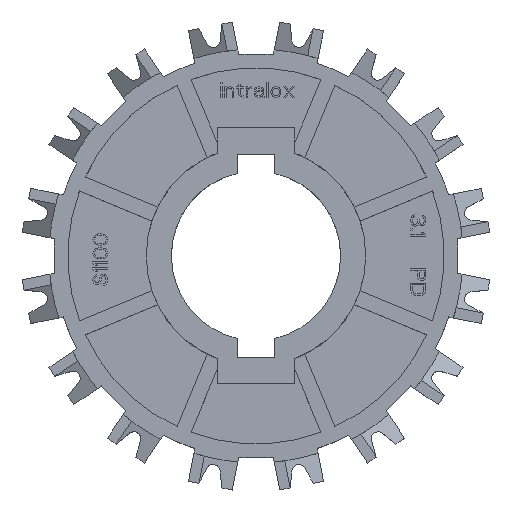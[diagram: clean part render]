
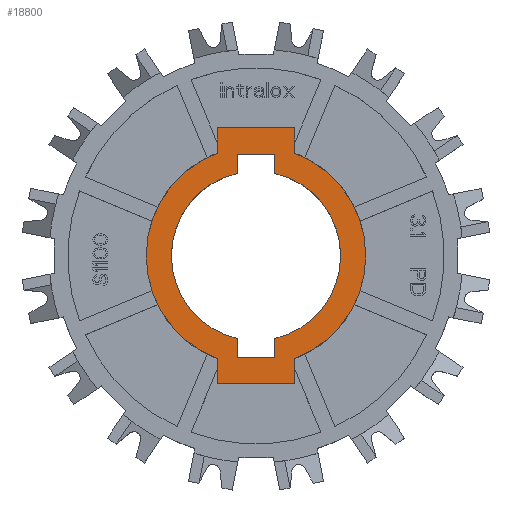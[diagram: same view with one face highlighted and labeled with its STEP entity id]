
A CAD part, top view. The second image highlights one B-rep face of the part: STEP entity #18800.
In plain terms, the highlighted planar face has unit normal (0, 0, 1).
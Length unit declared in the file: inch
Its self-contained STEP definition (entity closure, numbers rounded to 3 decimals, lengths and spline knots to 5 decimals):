
#6027=CARTESIAN_POINT('',(0.,0.,0.49));
#6028=DIRECTION('',(0.,0.,1.));
#6029=DIRECTION('',(-0.351,0.936,0.));
#6030=AXIS2_PLACEMENT_3D('',#6027,#6028,#6029);
#6032=DIRECTION('',(0.,-1.,0.));
#6033=VECTOR('',#6032,0.16739);
#6034=CARTESIAN_POINT('',(-0.256,0.8505,0.49));
#6035=LINE('',#6034,#6033);
#6036=DIRECTION('',(-1.,0.,0.));
#6037=VECTOR('',#6036,0.512);
#6038=CARTESIAN_POINT('',(0.256,0.8505,0.49));
#6039=LINE('',#6038,#6037);
#6040=DIRECTION('',(0.,1.,0.));
#6041=VECTOR('',#6040,0.16739);
#6042=CARTESIAN_POINT('',(0.256,0.68311,0.49));
#6043=LINE('',#6042,#6041);
#6044=CARTESIAN_POINT('',(0.,0.,0.49));
#6045=DIRECTION('',(0.,0.,1.));
#6046=DIRECTION('',(0.351,-0.936,0.));
#6047=AXIS2_PLACEMENT_3D('',#6044,#6045,#6046);
#6049=DIRECTION('',(0.,1.,0.));
#6050=VECTOR('',#6049,0.16739);
#6051=CARTESIAN_POINT('',(0.256,-0.8505,0.49));
#6052=LINE('',#6051,#6050);
#6053=DIRECTION('',(1.,0.,0.));
#6054=VECTOR('',#6053,0.512);
#6055=CARTESIAN_POINT('',(-0.256,-0.8505,0.49));
#6056=LINE('',#6055,#6054);
#6057=DIRECTION('',(0.,-1.,0.));
#6058=VECTOR('',#6057,0.16739);
#6059=CARTESIAN_POINT('',(-0.256,-0.68311,0.49));
#6060=LINE('',#6059,#6058);
#6061=DIRECTION('',(0.,-1.,0.));
#6062=VECTOR('',#6061,0.125);
#6063=CARTESIAN_POINT('',(-0.125,0.67344,0.49));
#6064=LINE('',#6063,#6062);
#6065=CARTESIAN_POINT('',(0.,0.,0.49));
#6066=DIRECTION('',(0.,0.,1.));
#6067=DIRECTION('',(-0.222,0.975,0.));
#6068=AXIS2_PLACEMENT_3D('',#6065,#6066,#6067);
#6070=DIRECTION('',(0.,-1.,0.));
#6071=VECTOR('',#6070,0.125);
#6072=CARTESIAN_POINT('',(-0.125,-0.54844,0.49));
#6073=LINE('',#6072,#6071);
#6074=DIRECTION('',(1.,0.,0.));
#6075=VECTOR('',#6074,0.25);
#6076=CARTESIAN_POINT('',(-0.125,-0.67344,0.49));
#6077=LINE('',#6076,#6075);
#6078=DIRECTION('',(0.,1.,0.));
#6079=VECTOR('',#6078,0.125);
#6080=CARTESIAN_POINT('',(0.125,-0.67344,0.49));
#6081=LINE('',#6080,#6079);
#6082=CARTESIAN_POINT('',(0.,0.,0.49));
#6083=DIRECTION('',(0.,0.,1.));
#6084=DIRECTION('',(0.222,-0.975,0.));
#6085=AXIS2_PLACEMENT_3D('',#6082,#6083,#6084);
#6087=DIRECTION('',(0.,1.,0.));
#6088=VECTOR('',#6087,0.125);
#6089=CARTESIAN_POINT('',(0.125,0.54844,0.49));
#6090=LINE('',#6089,#6088);
#6091=DIRECTION('',(-1.,0.,0.));
#6092=VECTOR('',#6091,0.25);
#6093=CARTESIAN_POINT('',(0.125,0.67344,0.49));
#6094=LINE('',#6093,#6092);
#10805=CARTESIAN_POINT('',(-0.256,0.68311,0.49));
#10806=CARTESIAN_POINT('',(-0.256,-0.68311,0.49));
#10807=VERTEX_POINT('',#10805);
#10808=VERTEX_POINT('',#10806);
#10809=CARTESIAN_POINT('',(-0.256,-0.8505,0.49));
#10810=VERTEX_POINT('',#10809);
#10811=CARTESIAN_POINT('',(0.256,-0.8505,0.49));
#10812=VERTEX_POINT('',#10811);
#10813=CARTESIAN_POINT('',(0.256,-0.68311,0.49));
#10814=VERTEX_POINT('',#10813);
#10815=CARTESIAN_POINT('',(0.256,0.68311,0.49));
#10816=VERTEX_POINT('',#10815);
#10817=CARTESIAN_POINT('',(0.256,0.8505,0.49));
#10818=VERTEX_POINT('',#10817);
#10819=CARTESIAN_POINT('',(-0.256,0.8505,0.49));
#10820=VERTEX_POINT('',#10819);
#10997=CARTESIAN_POINT('',(-0.125,0.67344,0.49));
#10998=CARTESIAN_POINT('',(-0.125,0.54844,0.49));
#10999=VERTEX_POINT('',#10997);
#11000=VERTEX_POINT('',#10998);
#11001=CARTESIAN_POINT('',(-0.125,-0.54844,0.49));
#11002=VERTEX_POINT('',#11001);
#11003=CARTESIAN_POINT('',(-0.125,-0.67344,0.49));
#11004=VERTEX_POINT('',#11003);
#11005=CARTESIAN_POINT('',(0.125,-0.67344,0.49));
#11006=VERTEX_POINT('',#11005);
#11007=CARTESIAN_POINT('',(0.125,-0.54844,0.49));
#11008=VERTEX_POINT('',#11007);
#11009=CARTESIAN_POINT('',(0.125,0.54844,0.49));
#11010=VERTEX_POINT('',#11009);
#11011=CARTESIAN_POINT('',(0.125,0.67344,0.49));
#11012=VERTEX_POINT('',#11011);
#18766=CARTESIAN_POINT('',(0.,0.,0.49));
#18767=DIRECTION('',(0.,0.,1.));
#18768=DIRECTION('',(1.,0.,0.));
#18769=AXIS2_PLACEMENT_3D('',#18766,#18767,#18768);
#18770=PLANE('',#18769);
#18771=ORIENTED_EDGE('',*,*,#16611,.F.);
#18772=ORIENTED_EDGE('',*,*,#18699,.F.);
#18774=ORIENTED_EDGE('',*,*,#18773,.F.);
#18775=ORIENTED_EDGE('',*,*,#18585,.F.);
#18776=ORIENTED_EDGE('',*,*,#18308,.F.);
#18777=ORIENTED_EDGE('',*,*,#18262,.F.);
#18778=ORIENTED_EDGE('',*,*,#18760,.F.);
#18779=ORIENTED_EDGE('',*,*,#18147,.F.);
#18780=EDGE_LOOP('',(#18771,#18772,#18774,#18775,#18776,#18777,#18778,#18779));
#18781=FACE_OUTER_BOUND('',#18780,.F.);
#18783=ORIENTED_EDGE('',*,*,#18782,.T.);
#18785=ORIENTED_EDGE('',*,*,#18784,.T.);
#18787=ORIENTED_EDGE('',*,*,#18786,.T.);
#18789=ORIENTED_EDGE('',*,*,#18788,.T.);
#18791=ORIENTED_EDGE('',*,*,#18790,.T.);
#18793=ORIENTED_EDGE('',*,*,#18792,.T.);
#18795=ORIENTED_EDGE('',*,*,#18794,.T.);
#18797=ORIENTED_EDGE('',*,*,#18796,.T.);
#18798=EDGE_LOOP('',(#18783,#18785,#18787,#18789,#18791,#18793,#18795,#18797));
#18799=FACE_BOUND('',#18798,.F.);
#18800=ADVANCED_FACE('',(#18781,#18799),#18770,.T.);
#6031=CIRCLE('',#6030,0.7295);
#6048=CIRCLE('',#6047,0.7295);
#6069=CIRCLE('',#6068,0.5625);
#6086=CIRCLE('',#6085,0.5625);
#16611=EDGE_CURVE('',#10807,#10808,#6031,.T.);
#18147=EDGE_CURVE('',#10808,#10810,#6060,.T.);
#18262=EDGE_CURVE('',#10812,#10814,#6052,.T.);
#18308=EDGE_CURVE('',#10814,#10816,#6048,.T.);
#18585=EDGE_CURVE('',#10816,#10818,#6043,.T.);
#18699=EDGE_CURVE('',#10820,#10807,#6035,.T.);
#18760=EDGE_CURVE('',#10810,#10812,#6056,.T.);
#18773=EDGE_CURVE('',#10818,#10820,#6039,.T.);
#18782=EDGE_CURVE('',#10999,#11000,#6064,.T.);
#18784=EDGE_CURVE('',#11000,#11002,#6069,.T.);
#18786=EDGE_CURVE('',#11002,#11004,#6073,.T.);
#18788=EDGE_CURVE('',#11004,#11006,#6077,.T.);
#18790=EDGE_CURVE('',#11006,#11008,#6081,.T.);
#18792=EDGE_CURVE('',#11008,#11010,#6086,.T.);
#18794=EDGE_CURVE('',#11010,#11012,#6090,.T.);
#18796=EDGE_CURVE('',#11012,#10999,#6094,.T.);
